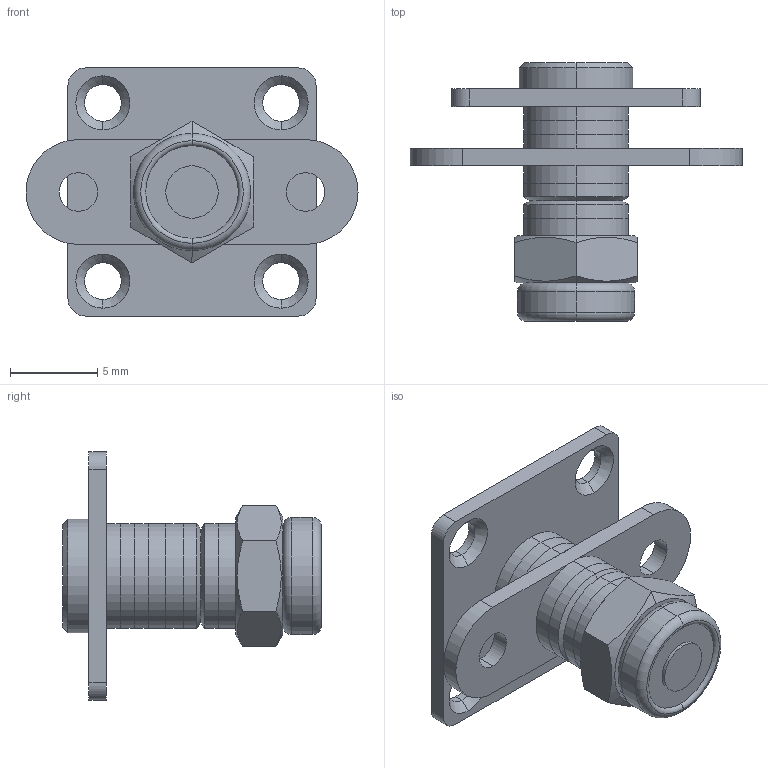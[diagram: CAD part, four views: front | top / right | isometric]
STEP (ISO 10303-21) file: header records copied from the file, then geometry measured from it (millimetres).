
FILE_DESCRIPTION (( 'STEP AP203' ), '1' );
FILE_NAME ('XG11-059.STEP', '2025-07-04T06:02:01', ( '微软用户' ), ( '微软中国' ), 'SwSTEP 2.0', 'SolidWorks 2024', '' );
FILE_SCHEMA (( 'CONFIG_CONTROL_DESIGN' ));
Length unit declared in the file: millimetre
Products named in the file (1): XG11-059
Bounding box: 19 x 14.8 x 14.2 mm (x, y, z)
Volume: 695.1 mm3; surface area: 1270.1 mm2
Topology: 7 solids, 7 shells, 96 faces, 202 edges, 124 vertices
Faces by surface type: cylinder 38, plane 34, cone 18, torus 6
Entity records: 2725 total; most frequent: CARTESIAN_POINT 507, DIRECTION 490, ORIENTED_EDGE 404, AXIS2_PLACEMENT_3D 203, EDGE_CURVE 202, VERTEX_POINT 124, EDGE_LOOP 112, CIRCLE 106
